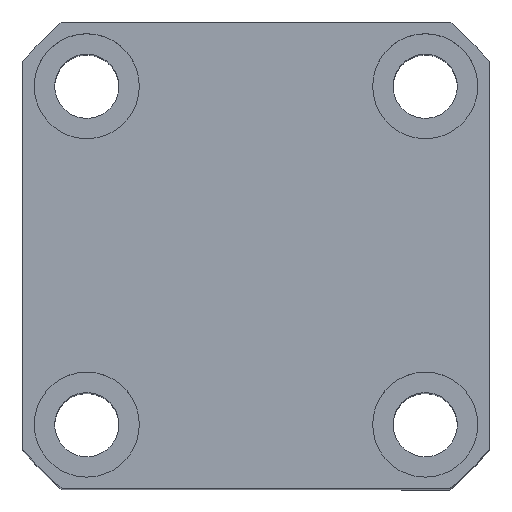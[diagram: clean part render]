
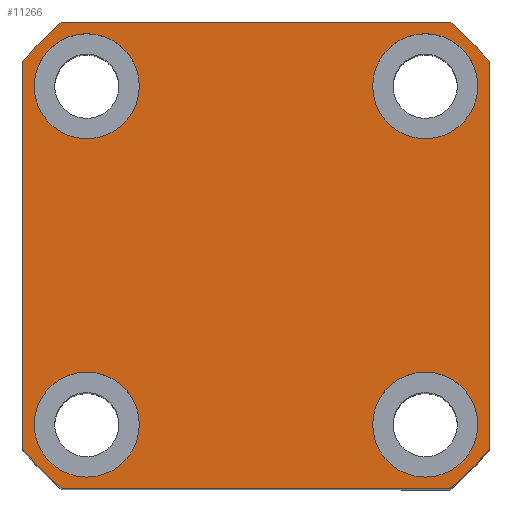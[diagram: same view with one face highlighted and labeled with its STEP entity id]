
A CAD part, top view. The second image highlights one B-rep face of the part: STEP entity #11266.
In plain terms, the highlighted planar face has unit normal (0, 0, 1).
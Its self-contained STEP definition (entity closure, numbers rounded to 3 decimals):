
#52 = FACE_BOUND ( 'NONE', #2243, .T. ) ;
#94 = DIRECTION ( 'NONE',  ( 1., 0., 0. ) ) ;
#127 = DIRECTION ( 'NONE',  ( 1., 0., 0. ) ) ;
#149 = ORIENTED_EDGE ( 'NONE', *, *, #17189, .F. ) ;
#182 = CARTESIAN_POINT ( 'NONE',  ( 0., 0., 60. ) ) ;
#317 = ORIENTED_EDGE ( 'NONE', *, *, #7863, .T. ) ;
#377 = CARTESIAN_POINT ( 'NONE',  ( 20., 29., 60. ) ) ;
#479 = CARTESIAN_POINT ( 'NONE',  ( 20., -29., 60. ) ) ;
#506 = AXIS2_PLACEMENT_3D ( 'NONE', #5348, #8136, #127 ) ;
#593 = VERTEX_POINT ( 'NONE', #14497 ) ;
#645 = CARTESIAN_POINT ( 'NONE',  ( -33.226, -40., 60. ) ) ;
#712 = EDGE_CURVE ( 'NONE', #11958, #9677, #14264, .T. ) ;
#715 = ORIENTED_EDGE ( 'NONE', *, *, #6898, .F. ) ;
#868 = CARTESIAN_POINT ( 'NONE',  ( -20., 29., 60. ) ) ;
#874 = DIRECTION ( 'NONE',  ( 0., 0., 1. ) ) ;
#1377 = CIRCLE ( 'NONE', #10517, 52. ) ;
#1427 = AXIS2_PLACEMENT_3D ( 'NONE', #13920, #2908, #10014 ) ;
#2076 = DIRECTION ( 'NONE',  ( 1., 0., 0. ) ) ;
#2104 = EDGE_CURVE ( 'NONE', #15236, #9344, #6267, .T. ) ;
#2204 = CARTESIAN_POINT ( 'NONE',  ( 29., 29., 60. ) ) ;
#2243 = EDGE_LOOP ( 'NONE', ( #6839, #2338 ) ) ;
#2338 = ORIENTED_EDGE ( 'NONE', *, *, #10355, .F. ) ;
#2360 = CARTESIAN_POINT ( 'NONE',  ( 29., -29., 60. ) ) ;
#2403 = AXIS2_PLACEMENT_3D ( 'NONE', #16176, #9397, #15014 ) ;
#2433 = DIRECTION ( 'NONE',  ( 0., -1., 0. ) ) ;
#2552 = AXIS2_PLACEMENT_3D ( 'NONE', #2360, #5264, #6683 ) ;
#2564 = ORIENTED_EDGE ( 'NONE', *, *, #2104, .T. ) ;
#2651 = VECTOR ( 'NONE', #10522, 1000. ) ;
#2908 = DIRECTION ( 'NONE',  ( 0., 0., 1. ) ) ;
#2953 = CARTESIAN_POINT ( 'NONE',  ( 33.226, -40., 60. ) ) ;
#3146 = EDGE_LOOP ( 'NONE', ( #15926, #14402 ) ) ;
#3305 = ORIENTED_EDGE ( 'NONE', *, *, #712, .T. ) ;
#3352 = FACE_BOUND ( 'NONE', #14298, .T. ) ;
#3401 = DIRECTION ( 'NONE',  ( 0., 0., 1. ) ) ;
#3419 = DIRECTION ( 'NONE',  ( 1., 0., 0. ) ) ;
#3441 = CARTESIAN_POINT ( 'NONE',  ( -29., 29., 60. ) ) ;
#3478 = DIRECTION ( 'NONE',  ( 0., 0., 1. ) ) ;
#3534 = CIRCLE ( 'NONE', #5413, 52. ) ;
#3609 = AXIS2_PLACEMENT_3D ( 'NONE', #182, #16775, #15548 ) ;
#3870 = CARTESIAN_POINT ( 'NONE',  ( -40., 33.226, 60. ) ) ;
#4328 = EDGE_CURVE ( 'NONE', #11292, #10101, #15203, .T. ) ;
#4779 = VERTEX_POINT ( 'NONE', #377 ) ;
#4834 = CARTESIAN_POINT ( 'NONE',  ( -38., 29., 60. ) ) ;
#5005 = CARTESIAN_POINT ( 'NONE',  ( 38., -29., 60. ) ) ;
#5114 = FACE_OUTER_BOUND ( 'NONE', #6307, .T. ) ;
#5264 = DIRECTION ( 'NONE',  ( 0., 0., 1. ) ) ;
#5274 = CARTESIAN_POINT ( 'NONE',  ( 40., 33.226, 60. ) ) ;
#5348 = CARTESIAN_POINT ( 'NONE',  ( 0., 0., 60. ) ) ;
#5413 = AXIS2_PLACEMENT_3D ( 'NONE', #12008, #874, #10620 ) ;
#5645 = ORIENTED_EDGE ( 'NONE', *, *, #9687, .T. ) ;
#5819 = AXIS2_PLACEMENT_3D ( 'NONE', #17646, #17386, #2076 ) ;
#6222 = EDGE_CURVE ( 'NONE', #4779, #8364, #7896, .T. ) ;
#6258 = VERTEX_POINT ( 'NONE', #868 ) ;
#6267 = LINE ( 'NONE', #645, #11288 ) ;
#6307 = EDGE_LOOP ( 'NONE', ( #3305, #5645, #317, #2564, #15650, #7451, #9056, #13408 ) ) ;
#6555 = AXIS2_PLACEMENT_3D ( 'NONE', #11904, #10395, #3419 ) ;
#6622 = ORIENTED_EDGE ( 'NONE', *, *, #6222, .F. ) ;
#6683 = DIRECTION ( 'NONE',  ( 1., 0., 0. ) ) ;
#6767 = CIRCLE ( 'NONE', #6555, 9. ) ;
#6839 = ORIENTED_EDGE ( 'NONE', *, *, #15351, .F. ) ;
#6898 = EDGE_CURVE ( 'NONE', #15927, #6258, #13295, .T. ) ;
#7236 = DIRECTION ( 'NONE',  ( 0., 0., 1. ) ) ;
#7385 = CIRCLE ( 'NONE', #2552, 9. ) ;
#7428 = CIRCLE ( 'NONE', #3609, 52. ) ;
#7451 = ORIENTED_EDGE ( 'NONE', *, *, #4328, .T. ) ;
#7483 = EDGE_CURVE ( 'NONE', #16068, #14125, #17035, .T. ) ;
#7666 = LINE ( 'NONE', #13316, #2651 ) ;
#7863 = EDGE_CURVE ( 'NONE', #593, #15236, #7428, .T. ) ;
#7896 = CIRCLE ( 'NONE', #11637, 9. ) ;
#8136 = DIRECTION ( 'NONE',  ( 0., 0., 1. ) ) ;
#8364 = VERTEX_POINT ( 'NONE', #15898 ) ;
#8646 = DIRECTION ( 'NONE',  ( 1., 0., 0. ) ) ;
#8652 = VECTOR ( 'NONE', #11843, 1000. ) ;
#8755 = AXIS2_PLACEMENT_3D ( 'NONE', #16856, #11316, #94 ) ;
#9046 = EDGE_LOOP ( 'NONE', ( #149, #6622 ) ) ;
#9056 = ORIENTED_EDGE ( 'NONE', *, *, #10985, .T. ) ;
#9344 = VERTEX_POINT ( 'NONE', #2953 ) ;
#9397 = DIRECTION ( 'NONE',  ( 0., 0., 1. ) ) ;
#9677 = VERTEX_POINT ( 'NONE', #16587 ) ;
#9687 = EDGE_CURVE ( 'NONE', #9677, #593, #17889, .T. ) ;
#10014 = DIRECTION ( 'NONE',  ( 1., 0., 0. ) ) ;
#10101 = VERTEX_POINT ( 'NONE', #5274 ) ;
#10355 = EDGE_CURVE ( 'NONE', #14325, #12777, #11738, .T. ) ;
#10395 = DIRECTION ( 'NONE',  ( 0., 0., 1. ) ) ;
#10517 = AXIS2_PLACEMENT_3D ( 'NONE', #16136, #3478, #11960 ) ;
#10522 = DIRECTION ( 'NONE',  ( -1., 0., 0. ) ) ;
#10620 = DIRECTION ( 'NONE',  ( 1., 0., 0. ) ) ;
#10698 = CARTESIAN_POINT ( 'NONE',  ( -33.226, -40., 60. ) ) ;
#10985 = EDGE_CURVE ( 'NONE', #10101, #12744, #1377, .T. ) ;
#11266 = ADVANCED_FACE ( 'NONE', ( #17513, #52, #3352, #13789, #5114 ), #18086, .T. ) ;
#11288 = VECTOR ( 'NONE', #11611, 1000. ) ;
#11292 = VERTEX_POINT ( 'NONE', #15207 ) ;
#11316 = DIRECTION ( 'NONE',  ( 0., 0., 1. ) ) ;
#11382 = CARTESIAN_POINT ( 'NONE',  ( -29., -29., 60. ) ) ;
#11515 = DIRECTION ( 'NONE',  ( 1., 0., 0. ) ) ;
#11611 = DIRECTION ( 'NONE',  ( 1., 0., 0. ) ) ;
#11637 = AXIS2_PLACEMENT_3D ( 'NONE', #2204, #3401, #15944 ) ;
#11738 = CIRCLE ( 'NONE', #13988, 9. ) ;
#11775 = CIRCLE ( 'NONE', #8755, 9. ) ;
#11843 = DIRECTION ( 'NONE',  ( 0., 1., 0. ) ) ;
#11904 = CARTESIAN_POINT ( 'NONE',  ( -29., 29., 60. ) ) ;
#11958 = VERTEX_POINT ( 'NONE', #16937 ) ;
#11960 = DIRECTION ( 'NONE',  ( 1., 0., 0. ) ) ;
#12008 = CARTESIAN_POINT ( 'NONE',  ( 0., 0., 60. ) ) ;
#12418 = ORIENTED_EDGE ( 'NONE', *, *, #12734, .F. ) ;
#12734 = EDGE_CURVE ( 'NONE', #6258, #15927, #6767, .T. ) ;
#12744 = VERTEX_POINT ( 'NONE', #17473 ) ;
#12777 = VERTEX_POINT ( 'NONE', #15338 ) ;
#13130 = DIRECTION ( 'NONE',  ( 0., 0., 1. ) ) ;
#13246 = EDGE_CURVE ( 'NONE', #9344, #11292, #3534, .T. ) ;
#13268 = VECTOR ( 'NONE', #2433, 1000. ) ;
#13295 = CIRCLE ( 'NONE', #14665, 9. ) ;
#13316 = CARTESIAN_POINT ( 'NONE',  ( -33.226, 40., 60. ) ) ;
#13408 = ORIENTED_EDGE ( 'NONE', *, *, #14196, .T. ) ;
#13789 = FACE_BOUND ( 'NONE', #9046, .T. ) ;
#13920 = CARTESIAN_POINT ( 'NONE',  ( 0., 0., 60. ) ) ;
#13988 = AXIS2_PLACEMENT_3D ( 'NONE', #11382, #7236, #8646 ) ;
#14125 = VERTEX_POINT ( 'NONE', #479 ) ;
#14196 = EDGE_CURVE ( 'NONE', #12744, #11958, #7666, .T. ) ;
#14264 = CIRCLE ( 'NONE', #506, 52. ) ;
#14298 = EDGE_LOOP ( 'NONE', ( #12418, #715 ) ) ;
#14325 = VERTEX_POINT ( 'NONE', #15051 ) ;
#14402 = ORIENTED_EDGE ( 'NONE', *, *, #17374, .F. ) ;
#14497 = CARTESIAN_POINT ( 'NONE',  ( -40., -33.226, 60. ) ) ;
#14665 = AXIS2_PLACEMENT_3D ( 'NONE', #3441, #13130, #11515 ) ;
#15014 = DIRECTION ( 'NONE',  ( 1., 0., 0. ) ) ;
#15051 = CARTESIAN_POINT ( 'NONE',  ( -38., -29., 60. ) ) ;
#15203 = LINE ( 'NONE', #16069, #8652 ) ;
#15207 = CARTESIAN_POINT ( 'NONE',  ( 40., -33.226, 60. ) ) ;
#15236 = VERTEX_POINT ( 'NONE', #10698 ) ;
#15338 = CARTESIAN_POINT ( 'NONE',  ( -20., -29., 60. ) ) ;
#15351 = EDGE_CURVE ( 'NONE', #12777, #14325, #17280, .T. ) ;
#15548 = DIRECTION ( 'NONE',  ( 1., 0., 0. ) ) ;
#15650 = ORIENTED_EDGE ( 'NONE', *, *, #13246, .T. ) ;
#15898 = CARTESIAN_POINT ( 'NONE',  ( 38., 29., 60. ) ) ;
#15926 = ORIENTED_EDGE ( 'NONE', *, *, #7483, .F. ) ;
#15927 = VERTEX_POINT ( 'NONE', #4834 ) ;
#15944 = DIRECTION ( 'NONE',  ( 1., 0., 0. ) ) ;
#16068 = VERTEX_POINT ( 'NONE', #5005 ) ;
#16069 = CARTESIAN_POINT ( 'NONE',  ( 40., 33.226, 60. ) ) ;
#16136 = CARTESIAN_POINT ( 'NONE',  ( 0., 0., 60. ) ) ;
#16176 = CARTESIAN_POINT ( 'NONE',  ( 29., -29., 60. ) ) ;
#16587 = CARTESIAN_POINT ( 'NONE',  ( -40., 33.226, 60. ) ) ;
#16775 = DIRECTION ( 'NONE',  ( 0., 0., 1. ) ) ;
#16856 = CARTESIAN_POINT ( 'NONE',  ( 29., 29., 60. ) ) ;
#16937 = CARTESIAN_POINT ( 'NONE',  ( -33.226, 40., 60. ) ) ;
#17035 = CIRCLE ( 'NONE', #2403, 9. ) ;
#17189 = EDGE_CURVE ( 'NONE', #8364, #4779, #11775, .T. ) ;
#17280 = CIRCLE ( 'NONE', #5819, 9. ) ;
#17374 = EDGE_CURVE ( 'NONE', #14125, #16068, #7385, .T. ) ;
#17386 = DIRECTION ( 'NONE',  ( 0., 0., 1. ) ) ;
#17473 = CARTESIAN_POINT ( 'NONE',  ( 33.226, 40., 60. ) ) ;
#17513 = FACE_BOUND ( 'NONE', #3146, .T. ) ;
#17646 = CARTESIAN_POINT ( 'NONE',  ( -29., -29., 60. ) ) ;
#17889 = LINE ( 'NONE', #3870, #13268 ) ;
#18086 = PLANE ( 'NONE',  #1427 ) ;
